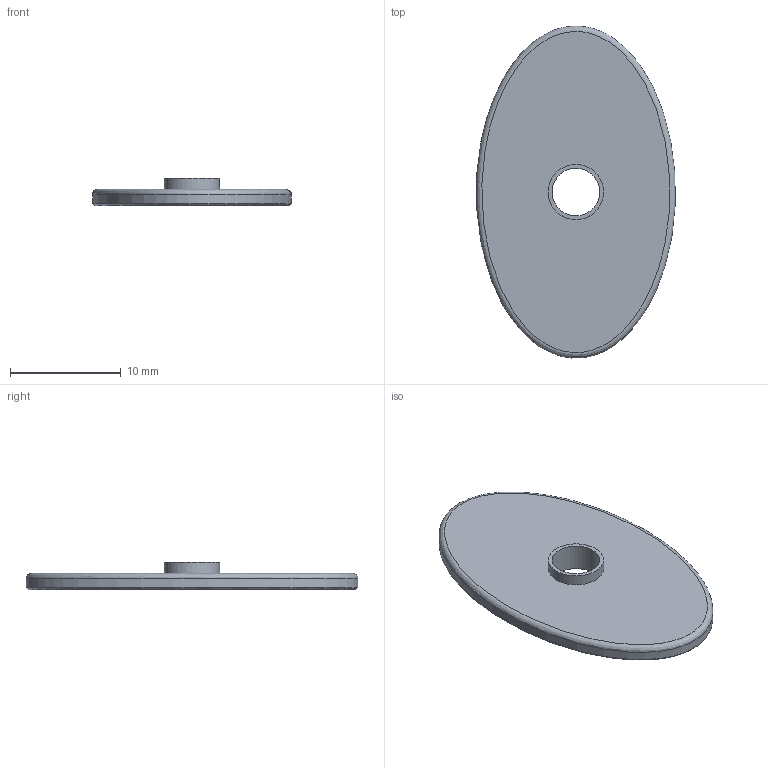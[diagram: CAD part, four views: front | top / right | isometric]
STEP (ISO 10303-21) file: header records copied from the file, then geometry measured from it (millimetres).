
FILE_DESCRIPTION(('Open CASCADE Model'),'2;1');
FILE_NAME('W-OVAL-WO30','2026-10-19T21:23:52',('Author'),('Open CASCADE' ),'Open CASCADE STEP processor 8.0','build123d','Unknown');
FILE_SCHEMA(('AUTOMOTIVE_DESIGN { 1 0 10303 214 1 1 1 1 }'));
Length unit declared in the file: millimetre
Products named in the file (2): W-OVAL-WO30; brass_WO30__w
Assembly tree (1 placements, depth 2):
  W-OVAL-WO30
    brass_WO30__w
Bounding box: 17.93 x 29.99 x 2.49 mm (x, y, z)
Volume: 608.9 mm3; surface area: 967.6 mm2
Topology: 1 solids, 1 shells, 12 faces, 19 edges, 12 vertices
Faces by surface type: plane 5, cylinder 4, bspline 2, extrusion 1
Full cylindrical faces by diameter (mm): 2 x2, 4.3 x1, 5 x1
Entity records: 1038 total; most frequent: CARTESIAN_POINT 602, DIRECTION 76, ORIENTED_EDGE 38, PCURVE 38, DEFINITIONAL_REPRESENTATION 38, VECTOR 28, LINE 27, AXIS2_PLACEMENT_3D 20
